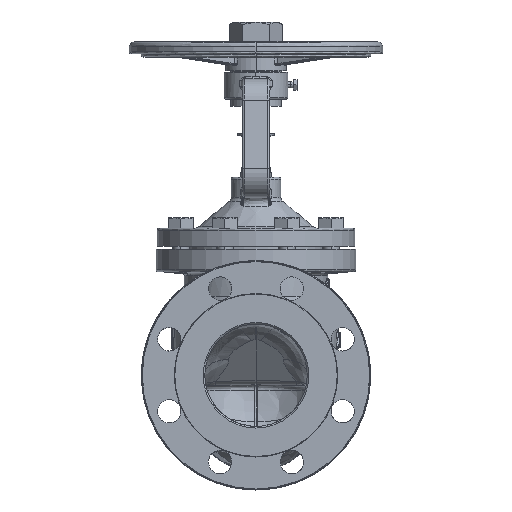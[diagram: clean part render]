
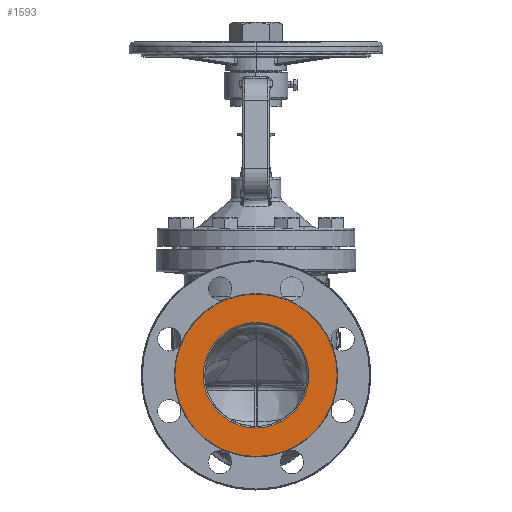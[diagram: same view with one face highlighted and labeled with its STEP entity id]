
A CAD part, left-side view. The second image highlights one B-rep face of the part: STEP entity #1593.
In plain terms, the highlighted planar face has unit normal (-1, 0, 0).
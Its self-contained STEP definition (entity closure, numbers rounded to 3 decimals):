
#1593=ADVANCED_FACE('',(#13457,#13458),#13456,.T.);
#13456=PLANE('',#37311);
#13457=FACE_OUTER_BOUND('',#37312,.T.);
#13458=FACE_BOUND('',#37313,.T.);
#37308=CARTESIAN_POINT('',(-178.,-148.564,-170.));
#37309=DIRECTION('',(-1.,0.,0.));
#37310=DIRECTION('',(0.,0.,1.));
#37311=AXIS2_PLACEMENT_3D('',#37308,#37309,#37310);
#37312=EDGE_LOOP('',(#95693,#95694));
#37313=EDGE_LOOP('',(#95695,#95696));
#95693=ORIENTED_EDGE('',*,*,#103299,.T.);
#95694=ORIENTED_EDGE('',*,*,#103300,.T.);
#95695=ORIENTED_EDGE('',*,*,#103301,.F.);
#95696=ORIENTED_EDGE('',*,*,#103302,.F.);
#103299=EDGE_CURVE('',#123857,#123858,#123859,.T.);
#103300=EDGE_CURVE('',#123858,#123857,#123865,.T.);
#103301=EDGE_CURVE('',#123871,#123872,#123873,.T.);
#103302=EDGE_CURVE('',#123872,#123871,#123879,.T.);
#123857=VERTEX_POINT('',#155289);
#123858=VERTEX_POINT('',#155290);
#123859=CIRCLE('',#155294,80.);
#123865=CIRCLE('',#155298,80.);
#123871=VERTEX_POINT('',#155299);
#123872=VERTEX_POINT('',#155300);
#123873=CIRCLE('',#155304,52.);
#123879=CIRCLE('',#155308,52.);
#155289=CARTESIAN_POINT('',(-178.,0.,80.));
#155290=CARTESIAN_POINT('',(-178.,0.,-80.));
#155291=CARTESIAN_POINT('',(-178.,0.,0.));
#155292=DIRECTION('',(-1.,0.,0.));
#155293=DIRECTION('',(0.,0.,1.));
#155294=AXIS2_PLACEMENT_3D('',#155291,#155292,#155293);
#155295=CARTESIAN_POINT('',(-178.,0.,0.));
#155296=DIRECTION('',(-1.,0.,0.));
#155297=DIRECTION('',(0.,0.,1.));
#155298=AXIS2_PLACEMENT_3D('',#155295,#155296,#155297);
#155299=CARTESIAN_POINT('',(-178.,0.,-52.));
#155300=CARTESIAN_POINT('',(-178.,0.,52.));
#155301=CARTESIAN_POINT('',(-178.,0.,0.));
#155302=DIRECTION('',(-1.,0.,0.));
#155303=DIRECTION('',(0.,0.,1.));
#155304=AXIS2_PLACEMENT_3D('',#155301,#155302,#155303);
#155305=CARTESIAN_POINT('',(-178.,0.,0.));
#155306=DIRECTION('',(-1.,0.,0.));
#155307=DIRECTION('',(0.,0.,1.));
#155308=AXIS2_PLACEMENT_3D('',#155305,#155306,#155307);
